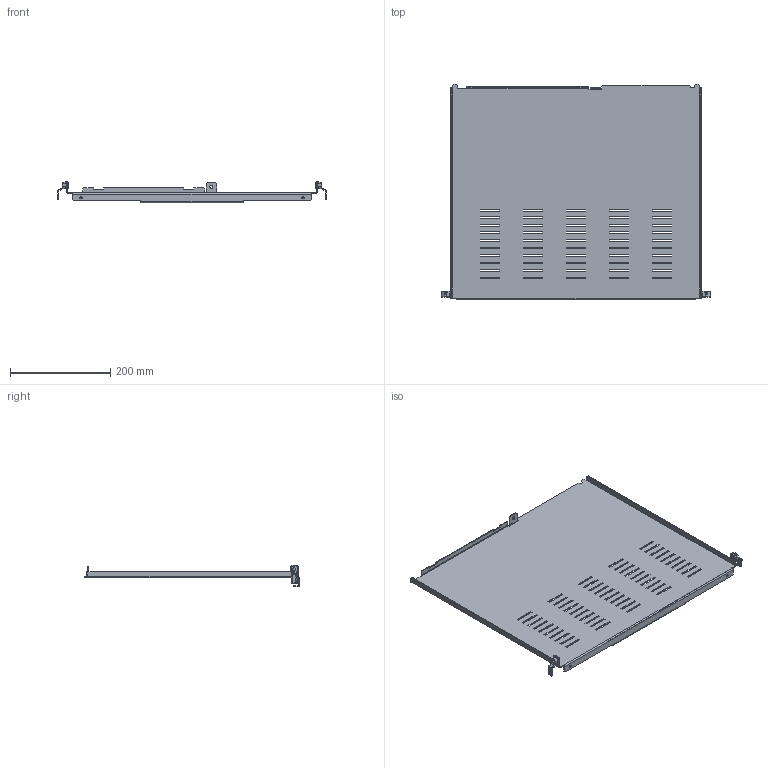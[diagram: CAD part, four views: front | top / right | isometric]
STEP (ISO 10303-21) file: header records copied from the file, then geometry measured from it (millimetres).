
FILE_DESCRIPTION(('CAx-IF Rec.Pracs.---Model Styling and Organization---1.2---2011-12-15','CAx-IF Rec.Pracs.---Geometric and Assembly Validation Properties---4.1---2014-06-16','CAx-IF Rec.Pracs.---PMI Polyline Presentation---2.0---2013-05-24'),'2;1');
FILE_NAME('R5MWPH.stp','2021-05-05T13:03:43+03:00',(''),(''),'STEP Interface 4.4 by CT CoreTechnologie','3D_Evolution4.4 by CT CoreTechnologie','');
FILE_SCHEMA(('AUTOMOTIVE_DESIGN { 1 0 10303 214 1 1 1 1 }'));
Length unit declared in the file: millimetre
Products named in the file (4): R5MWPH; RB.0931.00.00.0_-00; M6 x 16-DIN 7991 ISR_thread; AC00C485
Assembly tree (5 placements, depth 2):
  R5MWPH
    RB.0931.00.00.0_-00
    M6 x 16-DIN 7991 ISR_thread  x2
    AC00C485  x2
Bounding box: 536 x 430 x 43.45 mm (x, y, z)
Surface area: 466521.4 mm2 (no closed solid volume)
Topology: 0 solids, 7 shells, 496 faces, 1356 edges, 868 vertices
Faces by surface type: plane 366, cylinder 94, bspline 36
Entity records: 13614 total; most frequent: CARTESIAN_POINT 2821, ORIENTED_EDGE 2254, DIRECTION 2017, EDGE_CURVE 1127, VECTOR 989, LINE 989, VERTEX_POINT 732, EDGE_LOOP 515
